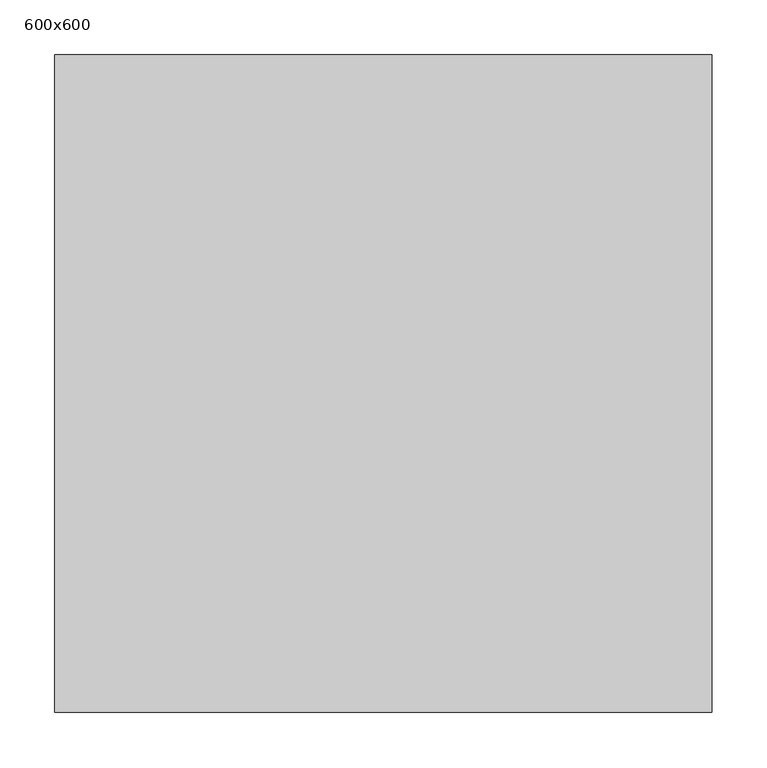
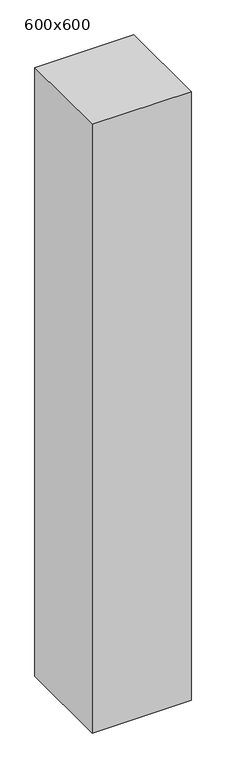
"""IFC4 building model written with IfcOpenShell, lengths in millimetres: column geometry, 混凝土 - 矩形 - 柱 : 600x600."""

import ifcopenshell
import ifcopenshell.guid

model = None  # the IFC model being written
_history = None  # IfcOwnerHistory: only IFC2X3 demands one
_inside = {}  # id of a spatial element -> (the spatial element, [elements in it])
_under = {}  # id of a project, library or spatial element -> (it, [spatial elements below it])
_declared = {}  # id of a project -> (the project, [libraries it declares])
_typed = {}  # id of a type object -> (the type object, [elements of that type])
_made_of = {}  # id of a material, layer set ... -> (it, [elements and type objects made of it])


def new_model(schema):
    """Start an empty IFC model of exactly this schema.

    Asked for "IFC4X3", IfcOpenShell would pick the latest addendum, in which some entities
    have other attributes; the version numbers below select the first issue.
    IFC2X3 requires an IfcOwnerHistory on every rooted entity: one is made here for all.
    """
    global model, _history
    if schema == "IFC4X3":
        model = ifcopenshell.file(schema_version=(4, 3, 0, 0))
    else:
        model = ifcopenshell.file(schema=schema)
    _inside.clear()
    _under.clear()
    _declared.clear()
    _typed.clear()
    _made_of.clear()
    _history = None
    if model.schema == "IFC2X3":
        org = make("IfcOrganization", Name="unknown")
        user = make(
            "IfcPersonAndOrganization",
            ThePerson=make("IfcPerson", FamilyName="unknown"),
            TheOrganization=org,
        )
        app = make(
            "IfcApplication",
            ApplicationDeveloper=org,
            Version="unknown",
            ApplicationFullName="unknown",
            ApplicationIdentifier="unknown",
        )
        _history = make(
            "IfcOwnerHistory",
            OwningUser=user,
            OwningApplication=app,
            ChangeAction="ADDED",
            CreationDate=0,
        )
    return model


def make(cls, **values):
    """One entity of the class cls with the attributes given. An attribute that is None is left unset."""
    return model.create_entity(
        cls, **{name: value for name, value in values.items() if value is not None}
    )


def rooted(cls, **values):
    """An entity with a GlobalId (a new one), such as an element, a storey or a relation."""
    return make(cls, GlobalId=ifcopenshell.guid.new(), OwnerHistory=_history, **values)


def si_unit(unit_type, name, prefix=None):
    """IfcSIUnit, for example si_unit("LENGTHUNIT", "METRE", prefix="MILLI")."""
    return make("IfcSIUnit", UnitType=unit_type, Prefix=prefix, Name=name)


def assignment(units):
    """IfcUnitAssignment: the units of a project."""
    return None if units is None else make("IfcUnitAssignment", Units=units)


def point(xyz):
    """IfcCartesianPoint."""
    return None if xyz is None else make("IfcCartesianPoint", Coordinates=xyz)


def direction(xyz):
    """IfcDirection."""
    return None if xyz is None else make("IfcDirection", DirectionRatios=xyz)


def frame(location, z_axis=None, x_axis=None):
    """IfcAxis2Placement3D, a coordinate frame: its origin and axes. An axis left out is left unset."""
    return make(
        "IfcAxis2Placement3D",
        Location=point(location),
        Axis=direction(z_axis),
        RefDirection=direction(x_axis),
    )


def origin():
    """The frame at (0, 0, 0) with its axes left unset."""
    return frame((0.0, 0.0, 0.0))


def place(relative_to, where):
    """IfcLocalPlacement: puts the frame where relative to a parent placement (None: the world)."""
    return make(
        "IfcLocalPlacement", PlacementRelTo=relative_to, RelativePlacement=where
    )


def context(
    kind, dimensions, precision=None, world=None, true_north=None, identifier=None
):
    """IfcGeometricRepresentationContext, for example the 3D "Model" context."""
    return make(
        "IfcGeometricRepresentationContext",
        ContextIdentifier=identifier,
        ContextType=kind,
        CoordinateSpaceDimension=dimensions,
        Precision=precision,
        WorldCoordinateSystem=world,
        TrueNorth=true_north,
    )


def project(units=None, contexts=None):
    """IfcProject with its units and contexts."""
    return rooted(
        "IfcProject",
        Name="project",
        RepresentationContexts=contexts,
        UnitsInContext=assignment(units),
    )


def spatial(cls, under=None, at=None, **own):
    """A site, building, storey or space (cls), placed at a placement, below another one or the project."""
    s = rooted(cls, ObjectPlacement=at, **own)
    if under is not None:
        _under.setdefault(under.id(), (under, []))[1].append(s)
    return s


def polyline(points):
    """IfcPolyline through the points."""
    return make("IfcPolyline", Points=[point(p) for p in points])


def outline(outer, holes=None, kind="AREA"):
    """IfcArbitraryClosedProfileDef: a profile drawn as a closed curve; with holes, ...WithVoids."""
    if holes is None:
        return make("IfcArbitraryClosedProfileDef", ProfileType=kind, OuterCurve=outer)
    return make(
        "IfcArbitraryProfileDefWithVoids",
        ProfileType=kind,
        OuterCurve=outer,
        InnerCurves=holes,
    )


def extrude(swept, where, along, depth):
    """IfcExtrudedAreaSolid: the profile swept, set in the frame where, extruded along a direction by depth."""
    return make(
        "IfcExtrudedAreaSolid",
        SweptArea=swept,
        Position=where,
        ExtrudedDirection=direction(along),
        Depth=depth,
    )


def shape(context_of_items, identifier, shape_type, items):
    """IfcShapeRepresentation: the items that make up one representation, for example the "Body"."""
    return make(
        "IfcShapeRepresentation",
        ContextOfItems=context_of_items,
        RepresentationIdentifier=identifier,
        RepresentationType=shape_type,
        Items=items,
    )


def source(mapping_origin, context_of_items, identifier, shape_type, items):
    """IfcRepresentationMap: a shape defined once, which mapped items show again and again."""
    return make(
        "IfcRepresentationMap",
        MappingOrigin=mapping_origin,
        MappedRepresentation=shape(context_of_items, identifier, shape_type, items),
    )


def transform(
    local_origin,
    x_axis=None,
    y_axis=None,
    z_axis=None,
    scale=None,
    scale2=None,
    scale3=None,
    uniform=True,
):
    """IfcCartesianTransformationOperator3D, or its non-uniform kind. x_axis, y_axis, z_axis: its Axis1, 2, 3."""
    if uniform:
        return make(
            "IfcCartesianTransformationOperator3D",
            Axis1=direction(x_axis),
            Axis2=direction(y_axis),
            LocalOrigin=point(local_origin),
            Scale=scale,
            Axis3=direction(z_axis),
        )
    return make(
        "IfcCartesianTransformationOperator3DnonUniform",
        Axis1=direction(x_axis),
        Axis2=direction(y_axis),
        LocalOrigin=point(local_origin),
        Scale=scale,
        Axis3=direction(z_axis),
        Scale2=scale2,
        Scale3=scale3,
    )


def mapped(mapping_source, mapping_target):
    """IfcMappedItem: shows the shape of a source again, moved by a transform."""
    return make(
        "IfcMappedItem", MappingSource=mapping_source, MappingTarget=mapping_target
    )


def made_of(thing, what):
    """Note that an element or type object is made of a material, layer set ...; save() writes the relation."""
    if what is not None:
        _made_of.setdefault(what.id(), (what, []))[1].append(thing)
    return thing


def element(
    cls,
    number,
    at=None,
    inside=None,
    cuts=None,
    type_object=None,
    material=None,
    context=None,
    identifier="Body",
    shape_type=None,
    held_by="IfcProductDefinitionShape",
    body=None,
    shapes=None,
    **own,
):
    """One element of the class cls, such as IfcWall. Its Tag is "e" and its number.

    at: its placement. inside: the storey or other place that contains it. cuts: it is an
    opening in that element (IfcRelVoidsElement). A single representation is given by context,
    identifier, shape_type and body (its items); several are given by shapes. held_by: the class
    of the entity that holds the representations. save() writes the other relations.
    """
    e = rooted(cls, Tag="e%d" % number, ObjectPlacement=at, **own)
    if body is not None:
        shapes = [shape(context, identifier, shape_type, body)]
    if shapes is not None:
        e.Representation = make(held_by, Representations=shapes)
    if inside is not None:
        _inside.setdefault(inside.id(), (inside, []))[1].append(e)
    if cuts is not None:
        rooted(
            "IfcRelVoidsElement", RelatingBuildingElement=cuts, RelatedOpeningElement=e
        )
    if type_object is not None:
        _typed.setdefault(type_object.id(), (type_object, []))[1].append(e)
    return made_of(e, material)


def aggregate(whole, parts):
    """IfcRelAggregates: a whole, such as a stair, and the parts it consists of."""
    return rooted("IfcRelAggregates", RelatingObject=whole, RelatedObjects=parts)


def save(model, path):
    """Write the relations noted so far, then the file.

    IfcRelAggregates (storeys below a building ...), IfcRelContainedInSpatialStructure (elements
    in a storey), IfcRelDefinesByType, IfcRelAssociatesMaterial and IfcRelDeclares: one each for
    every whole, place, type object, material and project.
    """
    for whole, parts in _under.values():
        aggregate(whole, parts)
    for where, things in _inside.values():
        rooted(
            "IfcRelContainedInSpatialStructure",
            RelatedElements=things,
            RelatingStructure=where,
        )
    for kind, things in _typed.values():
        rooted("IfcRelDefinesByType", RelatedObjects=things, RelatingType=kind)
    for what, things in _made_of.values():
        rooted("IfcRelAssociatesMaterial", RelatedObjects=things, RelatingMaterial=what)
    for by, libraries in _declared.values():
        rooted("IfcRelDeclares", RelatingContext=by, RelatedDefinitions=libraries)
    model.write(path)


def column_600x600_cfa490ef(model_context):
    return source(origin(), model_context, "Body", "SweptSolid", [
        extrude(outline(polyline([(300.0, 300.0), (300.0, -300.0), (-300.0, -300.0), (-300.0, 300.0), (300.0, 300.0)])), frame((0.0, 0.0, 7100.0), z_axis=(0.0, 0.0, 1.0), x_axis=(1.0, 0.0, 0.0)), (0.0, 0.0, 1.0), 3900.0),
    ])


if __name__ == "__main__":
    model = new_model("IFC4")
    model_context = context("Model", 3, world=origin())
    ifc_project = project(units=[si_unit("LENGTHUNIT", "METRE", prefix="MILLI")], contexts=[model_context])
    site = spatial("IfcSite", under=ifc_project)
    building = spatial("IfcBuilding", under=site)
    placement = place(None, origin())
    column_600x600_shape = column_600x600_cfa490ef(model_context)
    element("IfcColumn", 1, ObjectType="混凝土 - 矩形 - 柱 : 600x600", at=placement, inside=building, context=model_context, shape_type="MappedRepresentation", body=[
        mapped(column_600x600_shape, transform((0.0, 0.0, 0.0), x_axis=(1.0, 0.0, 0.0), y_axis=(0.0, 1.0, 0.0), z_axis=(0.0, 0.0, 1.0))),
    ])
    save(model, "model.ifc")
